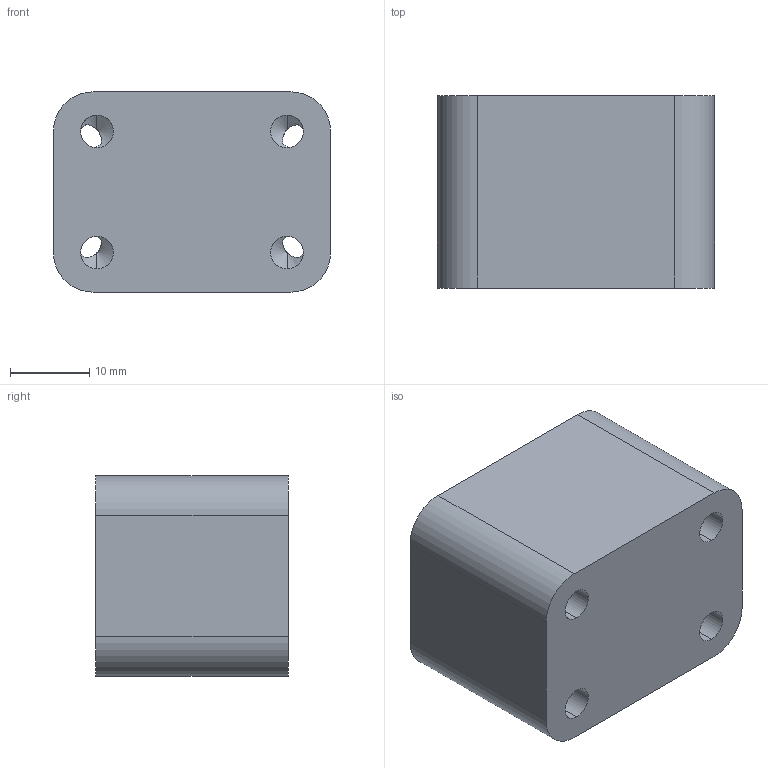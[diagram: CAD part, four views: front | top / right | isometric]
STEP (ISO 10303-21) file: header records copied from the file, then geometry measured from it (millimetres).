
FILE_DESCRIPTION (( 'STEP AP214' ), '1' );
FILE_NAME ('GZ21.15_V1肘夹垫块.STEP', '2021-02-26T09:21:28', ( '微软中国' ), ( 'Microsoft' ), 'SwSTEP 2.0', 'SolidWorks 2017', '' );
FILE_SCHEMA (( 'AUTOMOTIVE_DESIGN' ));
Length unit declared in the file: millimetre
Products named in the file (1): GZ21.15_V1紵標菜輸
Bounding box: 35 x 24.3 x 25.3 mm (x, y, z)
Volume: 19676.8 mm3; surface area: 5653.6 mm2
Topology: 1 solids, 1 shells, 50 faces, 128 edges, 80 vertices
Faces by surface type: cone 24, cylinder 20, plane 6
Entity records: 1914 total; most frequent: CARTESIAN_POINT 499, ORIENTED_EDGE 256, DIRECTION 246, EDGE_CURVE 128, AXIS2_PLACEMENT_3D 99, VERTEX_POINT 80, EDGE_LOOP 58, ADVANCED_FACE 50
